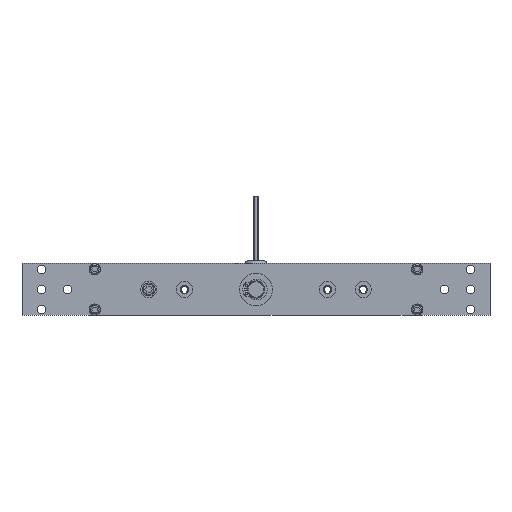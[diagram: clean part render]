
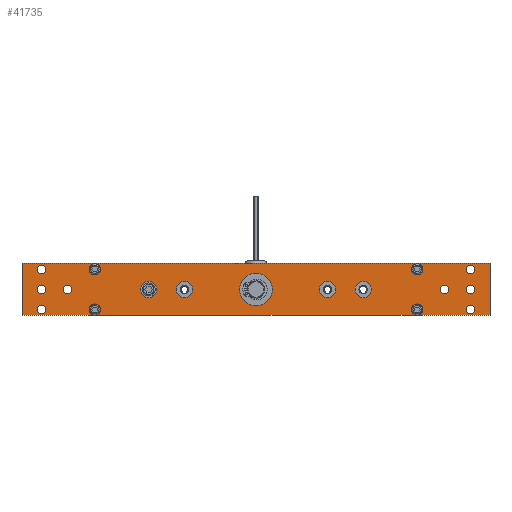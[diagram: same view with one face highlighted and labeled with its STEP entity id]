
A CAD part, front view. The second image highlights one B-rep face of the part: STEP entity #41735.
In plain terms, the highlighted planar face has unit normal (0, -1, 0) as drawn and (0, 0, 1) by its records, which use the part's own axes.
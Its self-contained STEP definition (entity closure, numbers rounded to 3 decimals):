
#2735=CIRCLE('',#53580,3.324);
#2736=CIRCLE('',#53581,3.324);
#2737=CIRCLE('',#53582,3.324);
#2738=CIRCLE('',#53583,3.324);
#2739=CIRCLE('',#53584,3.324);
#2740=CIRCLE('',#53585,3.324);
#2741=CIRCLE('',#53586,3.324);
#2742=CIRCLE('',#53587,3.324);
#2743=CIRCLE('',#53588,6.25);
#2744=CIRCLE('',#53589,6.25);
#2745=CIRCLE('',#53590,6.25);
#2746=CIRCLE('',#53591,6.25);
#2747=CIRCLE('',#53592,4.35);
#2748=CIRCLE('',#53593,4.35);
#2749=CIRCLE('',#53594,4.35);
#2750=CIRCLE('',#53595,4.35);
#2751=CIRCLE('',#53596,12.5);
#14782=ORIENTED_EDGE('',*,*,#21039,.T.);
#14783=ORIENTED_EDGE('',*,*,#21040,.T.);
#14784=ORIENTED_EDGE('',*,*,#21041,.T.);
#14785=ORIENTED_EDGE('',*,*,#21042,.T.);
#14786=ORIENTED_EDGE('',*,*,#21043,.T.);
#14787=ORIENTED_EDGE('',*,*,#21044,.T.);
#14788=ORIENTED_EDGE('',*,*,#21045,.T.);
#14789=ORIENTED_EDGE('',*,*,#21046,.T.);
#14790=ORIENTED_EDGE('',*,*,#21047,.T.);
#14791=ORIENTED_EDGE('',*,*,#21048,.T.);
#14792=ORIENTED_EDGE('',*,*,#21049,.T.);
#14793=ORIENTED_EDGE('',*,*,#21050,.T.);
#14794=ORIENTED_EDGE('',*,*,#21051,.T.);
#14795=ORIENTED_EDGE('',*,*,#21052,.T.);
#14796=ORIENTED_EDGE('',*,*,#21053,.T.);
#14797=ORIENTED_EDGE('',*,*,#21054,.T.);
#14798=ORIENTED_EDGE('',*,*,#21055,.T.);
#14799=ORIENTED_EDGE('',*,*,#21010,.T.);
#14800=ORIENTED_EDGE('',*,*,#21014,.T.);
#14801=ORIENTED_EDGE('',*,*,#21017,.T.);
#14802=ORIENTED_EDGE('',*,*,#21020,.T.);
#21010=EDGE_CURVE('',#25154,#25155,#29447,.T.);
#21014=EDGE_CURVE('',#25155,#25158,#29451,.T.);
#21017=EDGE_CURVE('',#25158,#25160,#29454,.T.);
#21020=EDGE_CURVE('',#25160,#25154,#29457,.T.);
#21039=EDGE_CURVE('',#25179,#25179,#2735,.T.);
#21040=EDGE_CURVE('',#25180,#25180,#2736,.T.);
#21041=EDGE_CURVE('',#25181,#25181,#2737,.T.);
#21042=EDGE_CURVE('',#25182,#25182,#2738,.T.);
#21043=EDGE_CURVE('',#25183,#25183,#2739,.T.);
#21044=EDGE_CURVE('',#25184,#25184,#2740,.T.);
#21045=EDGE_CURVE('',#25185,#25185,#2741,.T.);
#21046=EDGE_CURVE('',#25186,#25186,#2742,.T.);
#21047=EDGE_CURVE('',#25187,#25187,#2743,.T.);
#21048=EDGE_CURVE('',#25188,#25188,#2744,.T.);
#21049=EDGE_CURVE('',#25189,#25189,#2745,.T.);
#21050=EDGE_CURVE('',#25190,#25190,#2746,.T.);
#21051=EDGE_CURVE('',#25191,#25191,#2747,.T.);
#21052=EDGE_CURVE('',#25192,#25192,#2748,.T.);
#21053=EDGE_CURVE('',#25193,#25193,#2749,.T.);
#21054=EDGE_CURVE('',#25194,#25194,#2750,.T.);
#21055=EDGE_CURVE('',#25195,#25195,#2751,.T.);
#25154=VERTEX_POINT('',#78368);
#25155=VERTEX_POINT('',#78369);
#25158=VERTEX_POINT('',#78377);
#25160=VERTEX_POINT('',#78383);
#25179=VERTEX_POINT('',#78427);
#25180=VERTEX_POINT('',#78429);
#25181=VERTEX_POINT('',#78431);
#25182=VERTEX_POINT('',#78433);
#25183=VERTEX_POINT('',#78435);
#25184=VERTEX_POINT('',#78437);
#25185=VERTEX_POINT('',#78439);
#25186=VERTEX_POINT('',#78441);
#25187=VERTEX_POINT('',#78443);
#25188=VERTEX_POINT('',#78445);
#25189=VERTEX_POINT('',#78447);
#25190=VERTEX_POINT('',#78449);
#25191=VERTEX_POINT('',#78451);
#25192=VERTEX_POINT('',#78453);
#25193=VERTEX_POINT('',#78455);
#25194=VERTEX_POINT('',#78457);
#25195=VERTEX_POINT('',#78459);
#29447=LINE('',#78367,#33680);
#29451=LINE('',#78376,#33684);
#29454=LINE('',#78382,#33687);
#29457=LINE('',#78388,#33690);
#33680=VECTOR('',#65210,1000.);
#33684=VECTOR('',#65216,1000.);
#33687=VECTOR('',#65221,1000.);
#33690=VECTOR('',#65226,1000.);
#35886=EDGE_LOOP('',(#14782));
#35887=EDGE_LOOP('',(#14783));
#35888=EDGE_LOOP('',(#14784));
#35889=EDGE_LOOP('',(#14785));
#35890=EDGE_LOOP('',(#14786));
#35891=EDGE_LOOP('',(#14787));
#35892=EDGE_LOOP('',(#14788));
#35893=EDGE_LOOP('',(#14789));
#35894=EDGE_LOOP('',(#14790));
#35895=EDGE_LOOP('',(#14791));
#35896=EDGE_LOOP('',(#14792));
#35897=EDGE_LOOP('',(#14793));
#35898=EDGE_LOOP('',(#14794));
#35899=EDGE_LOOP('',(#14795));
#35900=EDGE_LOOP('',(#14796));
#35901=EDGE_LOOP('',(#14797));
#35902=EDGE_LOOP('',(#14798));
#35903=EDGE_LOOP('',(#14799,#14800,#14801,#14802));
#38182=FACE_BOUND('',#35886,.T.);
#38183=FACE_BOUND('',#35887,.T.);
#38184=FACE_BOUND('',#35888,.T.);
#38185=FACE_BOUND('',#35889,.T.);
#38186=FACE_BOUND('',#35890,.T.);
#38187=FACE_BOUND('',#35891,.T.);
#38188=FACE_BOUND('',#35892,.T.);
#38189=FACE_BOUND('',#35893,.T.);
#38190=FACE_BOUND('',#35894,.T.);
#38191=FACE_BOUND('',#35895,.T.);
#38192=FACE_BOUND('',#35896,.T.);
#38193=FACE_BOUND('',#35897,.T.);
#38194=FACE_BOUND('',#35898,.T.);
#38195=FACE_BOUND('',#35899,.T.);
#38196=FACE_BOUND('',#35900,.T.);
#38197=FACE_BOUND('',#35901,.T.);
#38198=FACE_BOUND('',#35902,.T.);
#38199=FACE_BOUND('',#35903,.T.);
#39652=PLANE('',#53579);
#41735=ADVANCED_FACE('',(#38182,#38183,#38184,#38185,#38186,#38187,#38188,
#38189,#38190,#38191,#38192,#38193,#38194,#38195,#38196,#38197,#38198,#38199),
#39652,.T.);
#53579=AXIS2_PLACEMENT_3D('',#78425,#65264,#65265);
#53580=AXIS2_PLACEMENT_3D('',#78426,#65266,#65267);
#53581=AXIS2_PLACEMENT_3D('',#78428,#65268,#65269);
#53582=AXIS2_PLACEMENT_3D('',#78430,#65270,#65271);
#53583=AXIS2_PLACEMENT_3D('',#78432,#65272,#65273);
#53584=AXIS2_PLACEMENT_3D('',#78434,#65274,#65275);
#53585=AXIS2_PLACEMENT_3D('',#78436,#65276,#65277);
#53586=AXIS2_PLACEMENT_3D('',#78438,#65278,#65279);
#53587=AXIS2_PLACEMENT_3D('',#78440,#65280,#65281);
#53588=AXIS2_PLACEMENT_3D('',#78442,#65282,#65283);
#53589=AXIS2_PLACEMENT_3D('',#78444,#65284,#65285);
#53590=AXIS2_PLACEMENT_3D('',#78446,#65286,#65287);
#53591=AXIS2_PLACEMENT_3D('',#78448,#65288,#65289);
#53592=AXIS2_PLACEMENT_3D('',#78450,#65290,#65291);
#53593=AXIS2_PLACEMENT_3D('',#78452,#65292,#65293);
#53594=AXIS2_PLACEMENT_3D('',#78454,#65294,#65295);
#53595=AXIS2_PLACEMENT_3D('',#78456,#65296,#65297);
#53596=AXIS2_PLACEMENT_3D('',#78458,#65298,#65299);
#65210=DIRECTION('',(0.,-1.,0.));
#65216=DIRECTION('',(1.,0.,0.));
#65221=DIRECTION('',(0.,1.,0.));
#65226=DIRECTION('',(-1.,0.,0.));
#65264=DIRECTION('',(0.,0.,1.));
#65265=DIRECTION('',(1.,0.,0.));
#65266=DIRECTION('',(0.,0.,-1.));
#65267=DIRECTION('',(0.,-1.,0.));
#65268=DIRECTION('',(0.,0.,-1.));
#65269=DIRECTION('',(0.,-1.,0.));
#65270=DIRECTION('',(0.,0.,-1.));
#65271=DIRECTION('',(0.,-1.,0.));
#65272=DIRECTION('',(0.,0.,-1.));
#65273=DIRECTION('',(0.,-1.,0.));
#65274=DIRECTION('',(0.,0.,-1.));
#65275=DIRECTION('',(0.,-1.,0.));
#65276=DIRECTION('',(0.,0.,-1.));
#65277=DIRECTION('',(0.,-1.,0.));
#65278=DIRECTION('',(0.,0.,-1.));
#65279=DIRECTION('',(0.,-1.,0.));
#65280=DIRECTION('',(0.,0.,-1.));
#65281=DIRECTION('',(0.,-1.,0.));
#65282=DIRECTION('',(0.,0.,-1.));
#65283=DIRECTION('',(0.,-1.,0.));
#65284=DIRECTION('',(0.,0.,-1.));
#65285=DIRECTION('',(0.,-1.,0.));
#65286=DIRECTION('',(0.,0.,-1.));
#65287=DIRECTION('',(0.,-1.,0.));
#65288=DIRECTION('',(0.,0.,-1.));
#65289=DIRECTION('',(0.,-1.,0.));
#65290=DIRECTION('',(0.,0.,-1.));
#65291=DIRECTION('',(0.,-1.,0.));
#65292=DIRECTION('',(0.,0.,-1.));
#65293=DIRECTION('',(0.,-1.,0.));
#65294=DIRECTION('',(0.,0.,-1.));
#65295=DIRECTION('',(0.,-1.,0.));
#65296=DIRECTION('',(0.,0.,-1.));
#65297=DIRECTION('',(0.,-1.,0.));
#65298=DIRECTION('',(0.,0.,-1.));
#65299=DIRECTION('',(0.,-1.,0.));
#78367=CARTESIAN_POINT('',(-180.,20.,0.));
#78368=CARTESIAN_POINT('',(-180.,20.,0.));
#78369=CARTESIAN_POINT('',(-180.,-20.,0.));
#78376=CARTESIAN_POINT('',(-180.,-20.,0.));
#78377=CARTESIAN_POINT('',(180.,-20.,0.));
#78382=CARTESIAN_POINT('',(180.,-20.,0.));
#78383=CARTESIAN_POINT('',(180.,20.,0.));
#78388=CARTESIAN_POINT('',(180.,20.,0.));
#78425=CARTESIAN_POINT('',(-180.,-20.,0.));
#78426=CARTESIAN_POINT('',(165.,0.,0.));
#78427=CARTESIAN_POINT('',(165.,-3.323,0.));
#78428=CARTESIAN_POINT('',(165.,-15.5,0.));
#78429=CARTESIAN_POINT('',(165.,-18.823,0.));
#78430=CARTESIAN_POINT('',(145.,0.,0.));
#78431=CARTESIAN_POINT('',(145.,-3.324,0.));
#78432=CARTESIAN_POINT('',(165.,15.5,0.));
#78433=CARTESIAN_POINT('',(165.,12.177,0.));
#78434=CARTESIAN_POINT('',(-165.,0.,0.));
#78435=CARTESIAN_POINT('',(-165.,-3.323,0.));
#78436=CARTESIAN_POINT('',(-165.,-15.5,0.));
#78437=CARTESIAN_POINT('',(-165.,-18.823,0.));
#78438=CARTESIAN_POINT('',(-145.,0.,0.));
#78439=CARTESIAN_POINT('',(-145.,-3.324,0.));
#78440=CARTESIAN_POINT('',(-165.,15.5,0.));
#78441=CARTESIAN_POINT('',(-165.,12.177,0.));
#78442=CARTESIAN_POINT('',(82.5,0.,0.));
#78443=CARTESIAN_POINT('',(82.5,-6.25,0.));
#78444=CARTESIAN_POINT('',(-82.5,0.,0.));
#78445=CARTESIAN_POINT('',(-82.5,-6.25,0.));
#78446=CARTESIAN_POINT('',(55.,0.,0.));
#78447=CARTESIAN_POINT('',(55.,-6.25,0.));
#78448=CARTESIAN_POINT('',(-55.,0.,0.));
#78449=CARTESIAN_POINT('',(-55.,-6.25,0.));
#78450=CARTESIAN_POINT('',(-124.,15.5,0.));
#78451=CARTESIAN_POINT('',(-124.,11.15,0.));
#78452=CARTESIAN_POINT('',(124.,-15.5,0.));
#78453=CARTESIAN_POINT('',(124.,-19.85,0.));
#78454=CARTESIAN_POINT('',(124.,15.5,0.));
#78455=CARTESIAN_POINT('',(124.,11.15,0.));
#78456=CARTESIAN_POINT('',(-124.,-15.5,0.));
#78457=CARTESIAN_POINT('',(-124.,-19.85,0.));
#78458=CARTESIAN_POINT('',(0.,0.,0.));
#78459=CARTESIAN_POINT('',(0.,-12.5,0.));
